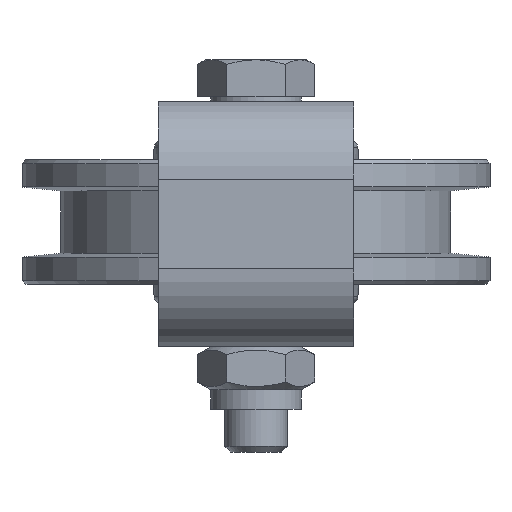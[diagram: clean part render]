
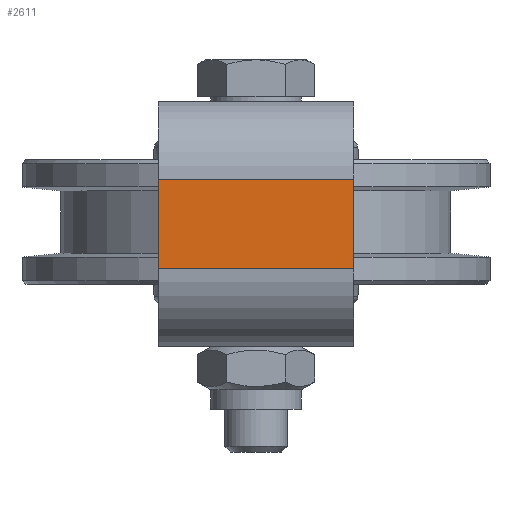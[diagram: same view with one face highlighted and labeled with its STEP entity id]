
A CAD part, left-side view. The second image highlights one B-rep face of the part: STEP entity #2611.
In plain terms, the highlighted planar face has unit normal (-1, 0, 0) as drawn and (0, 1, 0) by its records, which use the part's own axes.
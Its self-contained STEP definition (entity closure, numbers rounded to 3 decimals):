
#299=PLANE('',#2936);
#383=FACE_OUTER_BOUND('',#557,.T.);
#557=EDGE_LOOP('',(#1928,#1929,#1930,#1931));
#758=LINE('',#4003,#931);
#765=LINE('',#4023,#938);
#768=LINE('',#4030,#941);
#770=LINE('',#4033,#943);
#931=VECTOR('',#3270,10.);
#938=VECTOR('',#3295,10.);
#941=VECTOR('',#3302,10.);
#943=VECTOR('',#3306,10.);
#1221=VERTEX_POINT('',#4000);
#1222=VERTEX_POINT('',#4002);
#1226=VERTEX_POINT('',#4021);
#1228=VERTEX_POINT('',#4029);
#1475=EDGE_CURVE('',#1222,#1221,#758,.T.);
#1485=EDGE_CURVE('',#1226,#1221,#765,.T.);
#1488=EDGE_CURVE('',#1222,#1228,#768,.T.);
#1490=EDGE_CURVE('',#1226,#1228,#770,.T.);
#1928=ORIENTED_EDGE('',*,*,#1475,.T.);
#1929=ORIENTED_EDGE('',*,*,#1485,.F.);
#1930=ORIENTED_EDGE('',*,*,#1490,.T.);
#1931=ORIENTED_EDGE('',*,*,#1488,.F.);
#2611=ADVANCED_FACE('',(#383),#299,.F.);
#2936=AXIS2_PLACEMENT_3D('',#4040,#3319,#3320);
#3270=DIRECTION('',(1.,0.,0.));
#3295=DIRECTION('',(0.,0.,1.));
#3302=DIRECTION('',(0.,0.,-1.));
#3306=DIRECTION('',(-1.,0.,0.));
#3319=DIRECTION('center_axis',(0.,-1.,0.));
#3320=DIRECTION('ref_axis',(1.,0.,0.));
#4000=CARTESIAN_POINT('',(12.5,42.,21.5));
#4002=CARTESIAN_POINT('',(-12.5,42.,21.5));
#4003=CARTESIAN_POINT('',(-6.25,42.,21.5));
#4021=CARTESIAN_POINT('',(12.5,42.,10.));
#4023=CARTESIAN_POINT('',(12.5,42.,10.));
#4029=CARTESIAN_POINT('',(-12.5,42.,10.));
#4030=CARTESIAN_POINT('',(-12.5,42.,-1.31));
#4033=CARTESIAN_POINT('',(0.,42.,10.));
#4040=CARTESIAN_POINT('Origin',(0.,42.,15.095));
